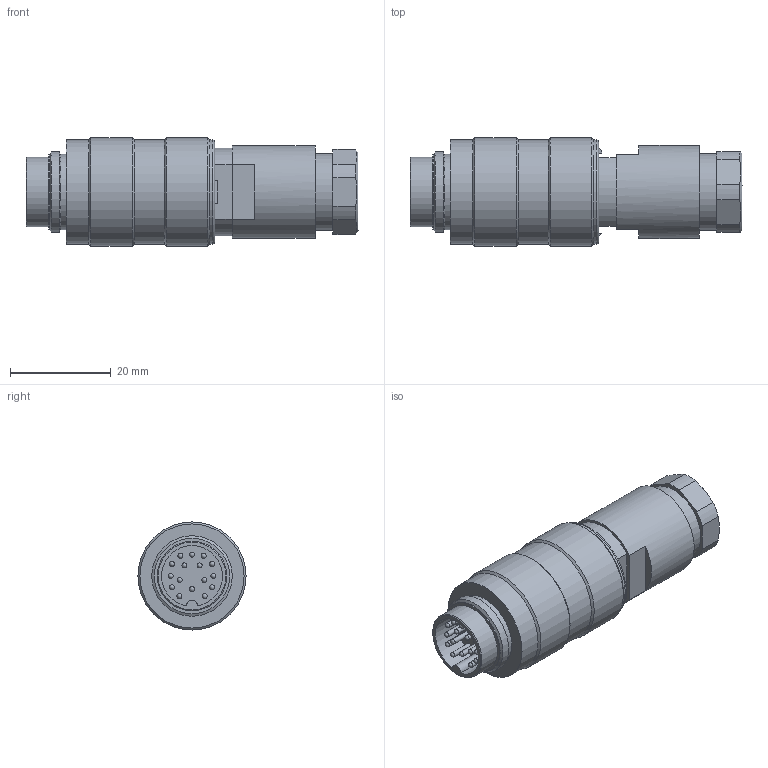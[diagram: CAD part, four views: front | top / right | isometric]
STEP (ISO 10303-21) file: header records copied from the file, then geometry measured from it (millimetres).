
FILE_DESCRIPTION(/* description */ (''),/* implementation_level */ '2;1');
FILE_NAME(/* name */ '09-0505-70-16_bg.stp',/* time_stamp */ '2010-12-08T14:05:37+01:00',/* author */ (''),/* organization */ (''),/* preprocessor_version */ 'ST-DEVELOPER v11',/* originating_system */ 'UGS - NX 5.0',/* authorisation */ '');
FILE_SCHEMA (('CONFIG_CONTROL_DESIGN'));
Length unit declared in the file: millimetre
Products named in the file (1): kbor821D3pm9
Bounding box: 66 x 21.5 x 21.5 mm (x, y, z)
Volume: 17864.7 mm3; surface area: 5279.8 mm2
Topology: 1 solids, 1 shells, 93 faces, 247 edges, 149 vertices
Faces by surface type: cylinder 37, plane 31, sphere 16, cone 8, torus 1
Full cylindrical faces by diameter (mm): 1 x16, 13.8 x1, 15 x2, 15.2 x1, 16 x1, 18.5 x1, 20.7 x3, 21.5 x2
Entity records: 2312 total; most frequent: DIRECTION 408, CARTESIAN_POINT 386, ORIENTED_EDGE 292, AXIS2_PLACEMENT_3D 174, EDGE_LOOP 154, EDGE_CURVE 146, VERTEX_POINT 116, FACE_BOUND 105
